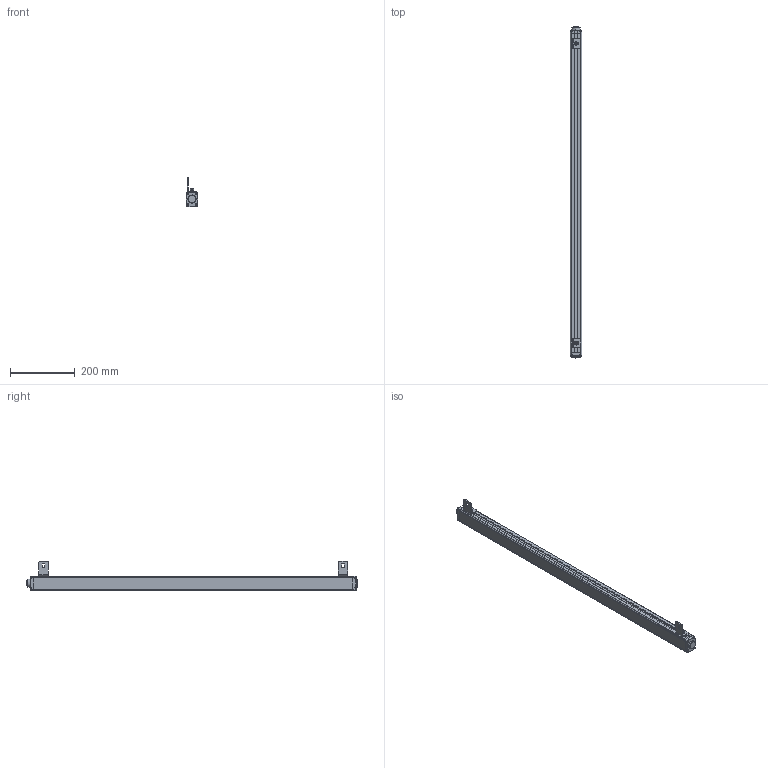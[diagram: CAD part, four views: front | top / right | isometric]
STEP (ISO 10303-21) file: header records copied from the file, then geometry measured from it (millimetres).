
FILE_DESCRIPTION((''),'2;1');
FILE_NAME('ESCL-00_ASM','2021-07-17T11:08:10',('18720616900'),(''),'CREO PARAMETRIC BY PTC INC, 2019010','CREO PARAMETRIC BY PTC INC, 2019010','');
FILE_SCHEMA(('CONFIG_CONTROL_DESIGN'));
Products named in the file (12): ESCL-00; ESCL-3-SOLID1000; ESCL-4-SOLID1000; HKCT1_-4-SOLID1; L10001; M6-8--0001; M6-1--00; M6-1-00; 00; M6-80001_ASM; L1--0001_ASM; ESCL-00_ASM
Assembly tree (12 placements, depth 4):
  ESCL-00_ASM
    ESCL-00
    ESCL-3-SOLID1000
    ESCL-4-SOLID1000
    HKCT1_-4-SOLID1
    L1--0001_ASM  x2
      L10001
      M6-80001_ASM
        M6-8--0001
        M6-1--00
        M6-1-00
        00
Bounding box: 36.1 x 1025.1 x 91.11 mm (x, y, z)
Volume: 1463214.5 mm3; surface area: 221415 mm2
Topology: 14 solids, 14 shells, 625 faces, 1645 edges, 1070 vertices
Faces by surface type: plane 226, cylinder 208, cone 78, bspline 66, torus 47
Entity records: 76177 total; most frequent: CARTESIAN_POINT 63991, ORIENTED_EDGE 2664, DIRECTION 2275, EDGE_CURVE 1332, VERTEX_POINT 872, AXIS2_PLACEMENT_3D 816, VECTOR 643, LINE 643
